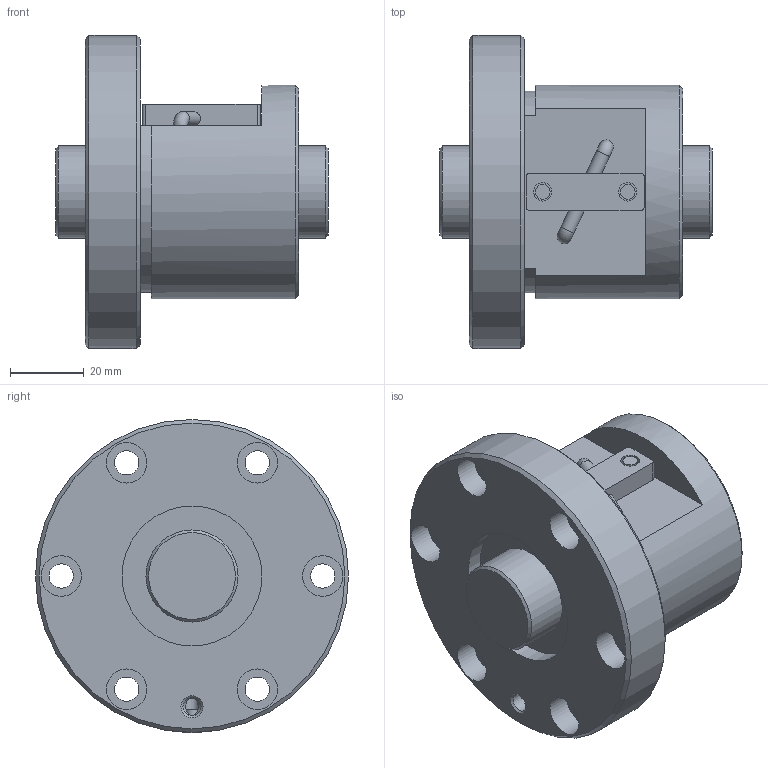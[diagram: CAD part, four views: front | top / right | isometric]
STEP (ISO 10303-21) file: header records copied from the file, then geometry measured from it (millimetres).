
FILE_DESCRIPTION(/* description */ ('STEP AP203'),/* implementation_level */ '2;1');
FILE_NAME(/* name */ 'BNF2508V-2.5RRG1+74LC0_000_rev',/* time_stamp */ '2024-08-06T07:29:28+02:00',/* author */ ('License CC BY-ND 4.0'),/* organization */ ('CADENAS'),/* preprocessor_version */ 'ST-DEVELOPER v19.3',/* originating_system */ 'PARTsolutions',/* authorisation */ ' ');
FILE_SCHEMA (('CONFIG_CONTROL_DESIGN'));
Length unit declared in the file: millimetre
Products named in the file (3): BNF2508V-2.5RRG1+74LC0_000_rev; BNF 2508-2.5RR000 Shaft; BNF 2508-2.5RR Nut
Assembly tree (2 placements, depth 2):
  BNF2508V-2.5RRG1+74LC0_000_rev
    BNF 2508-2.5RR000 Shaft
    BNF 2508-2.5RR Nut
Bounding box: 74 x 85 x 85 mm (x, y, z)
Volume: 184388.9 mm3; surface area: 37495.2 mm2
Topology: 2 solids, 2 shells, 69 faces, 148 edges, 96 vertices
Faces by surface type: cylinder 33, plane 27, cone 7, torus 2
Full cylindrical faces by diameter (mm): 3.75 x2, 3.865 x2, 4 x2, 4.917 x1, 5 x2, 6.6 x6, 11 x6, 25 x2, 38 x2, 58 x1, 85 x1
Entity records: 1757 total; most frequent: DIRECTION 312, CARTESIAN_POINT 298, ORIENTED_EDGE 200, AXIS2_PLACEMENT_3D 144, EDGE_LOOP 140, FACE_BOUND 140, EDGE_CURVE 100, VERTEX_POINT 86
